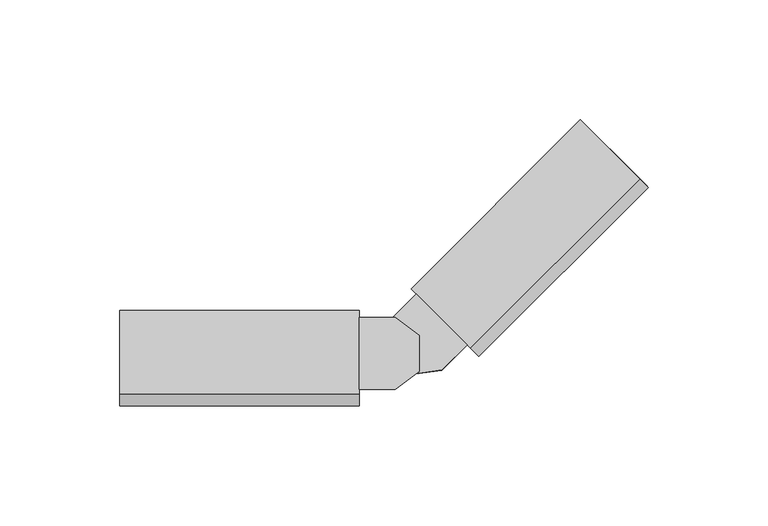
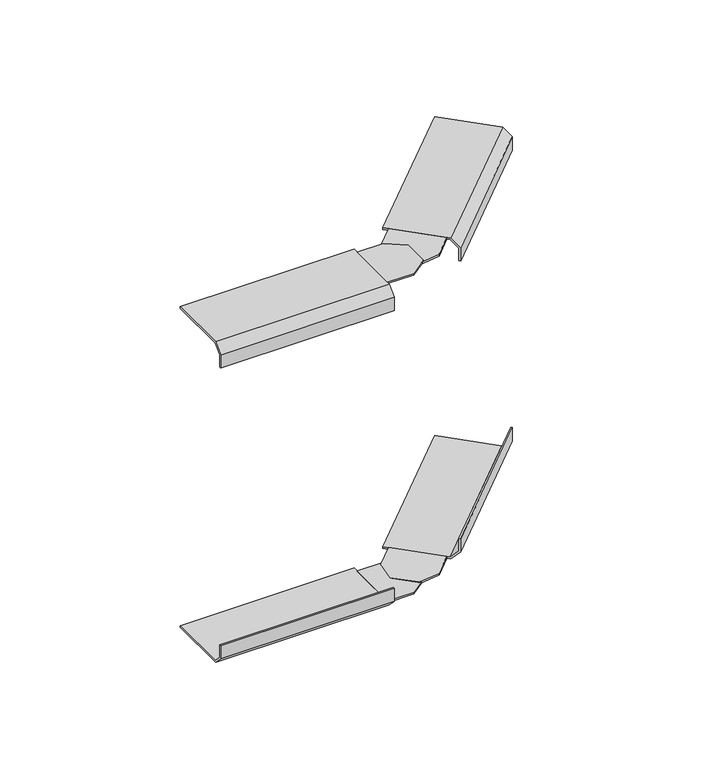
"""IFC4 building model written with IfcOpenShell, lengths in millimetres: cable carrier fitting geometry, JUBPE-A_Juction 60-Basorplast : 2 x Basorplast JUBPE-A 60."""

from ifc_helpers import new_model, si_unit, frame, origin, place, context, project, spatial, polyline, outline, extrude, source, transform, mapped, element, save


def cable_carrier_fitting_5215da82(model_context):
    return source(origin(), model_context, "Body", "SweptSolid", [
        extrude(outline(polyline([(13.1539404, -21.2646629), (23.7605421, -10.6580612), (44.9737456, -31.8712646), (34.3671439, -42.4778663), (21.9927949, -44.245653), (11.3861932, -33.6390513), (13.1539404, -21.2646629)])), frame((0.0, 0.0, -97.5), z_axis=(0.0, 0.0, 1.0), x_axis=(1.0, 0.0, 0.0)), (0.0, 0.0, 1.0), 1.0),
        extrude(outline(polyline([(1.0, 0.0), (1.0, -34.9999999), (-4.0, -39.9999999), (-12.0, -39.9999999), (-12.0, -39.0), (-4.4142136, -39.0), (0.0, -34.5857864), (0.0, 0.0), (1.0, 0.0)])), frame((21.6392218, -8.5367409, -96.5), z_axis=(0.7071067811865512, 0.7071067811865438, 0.0), x_axis=(0.0, 0.0, -1.0)), (0.0, 0.0, 1.0), 100.0),
        extrude(outline(polyline([(15.0, -20.5), (25.0, -28.0000279), (25.0, -43.0000279), (15.0, -50.5), (0.0, -50.5), (0.0, -20.5), (15.0, -20.5)])), frame((0.0, 0.0, 96.5), z_axis=(0.0, 0.0, 1.0), x_axis=(1.0, 0.0, 0.0)), (0.0, 0.0, 1.0), 1.0),
        extrude(outline(polyline([(-17.5, 97.5), (-17.5, 96.5), (-52.0857864, 96.5), (-56.5, 92.0857864), (-56.5, 84.5), (-57.5, 84.5), (-57.5, 92.5), (-52.5, 97.5), (-17.5, 97.5)])), frame((-100.0, 0.0, 0.0), z_axis=(1.0, 0.0, 0.0), x_axis=(0.0, 1.0, 0.0)), (0.0, 0.0, 1.0), 100.0),
        extrude(outline(polyline([(13.1539404, -21.2646629), (23.7605421, -10.6580612), (44.9737456, -31.8712646), (34.3671439, -42.4778663), (21.9927949, -44.245653), (11.3861932, -33.6390513), (13.1539404, -21.2646629)])), frame((0.0, 0.0, 96.5), z_axis=(0.0, 0.0, 1.0), x_axis=(1.0, 0.0, 0.0)), (0.0, 0.0, 1.0), 1.0),
        extrude(outline(polyline([(1.0, 0.0), (0.0, 0.0), (0.0, 34.5857864), (-4.4142136, 39.0), (-12.0, 39.0), (-12.0, 39.9999999), (-4.0, 39.9999999), (1.0, 34.9999999), (1.0, 0.0)])), frame((21.6392218, -8.5367409, 96.5), z_axis=(0.7071067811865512, 0.7071067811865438, 0.0), x_axis=(0.0, 0.0, 1.0)), (0.0, 0.0, 1.0), 100.0),
        extrude(outline(polyline([(15.0, -20.5), (25.0, -28.0000279), (25.0, -43.0000279), (15.0, -50.5), (0.0, -50.5), (0.0, -20.5), (15.0, -20.5)])), frame((0.0, 0.0, -97.5), z_axis=(0.0, 0.0, 1.0), x_axis=(1.0, 0.0, 0.0)), (0.0, 0.0, 1.0), 1.0),
        extrude(outline(polyline([(-17.5, -97.5), (-52.5, -97.5), (-57.5, -92.5), (-57.5, -84.5), (-56.5, -84.5), (-56.5, -92.0857864), (-52.0857864, -96.5), (-17.5, -96.5), (-17.5, -97.5)])), frame((-100.0, 0.0, 0.0), z_axis=(1.0, 0.0, 0.0), x_axis=(0.0, 1.0, 0.0)), (0.0, 0.0, 1.0), 100.0),
    ])


if __name__ == "__main__":
    model = new_model("IFC4")
    model_context = context("Model", 3, world=origin())
    ifc_project = project(units=[si_unit("LENGTHUNIT", "METRE", prefix="MILLI")], contexts=[model_context])
    site = spatial("IfcSite", under=ifc_project)
    building = spatial("IfcBuilding", under=site)
    placement = place(None, origin())
    cable_carrier_fitting_shape = cable_carrier_fitting_5215da82(model_context)
    element("IfcCableCarrierFitting", 1, ObjectType="JUBPE-A_Juction 60-Basorplast : 2 x Basorplast JUBPE-A 60", at=placement, inside=building, context=model_context, shape_type="MappedRepresentation", body=[
        mapped(cable_carrier_fitting_shape, transform((0.0, 0.0, 0.0), x_axis=(1.0, 0.0, 0.0), y_axis=(0.0, 1.0, 0.0), z_axis=(0.0, 0.0, 1.0))),
    ])
    save(model, "model.ifc")
